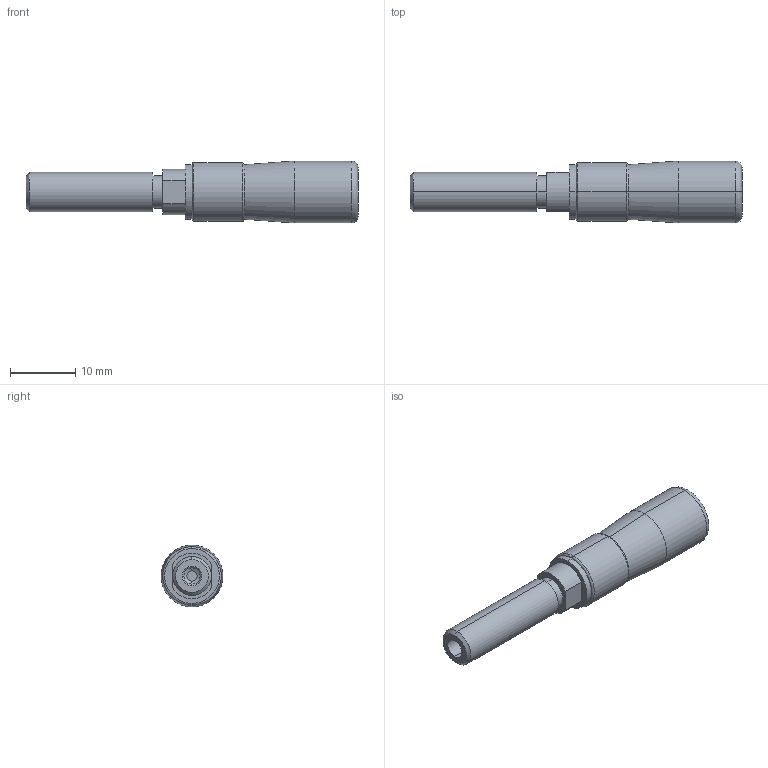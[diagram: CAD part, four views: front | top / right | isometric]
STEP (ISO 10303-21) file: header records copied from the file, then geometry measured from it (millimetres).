
FILE_DESCRIPTION( (''), '2;1');
FILE_NAME ('TGMX25.1684.RBP007RCA_22806.stp','2015-03-30T15:10:25',(''),(''),'spGate 11.3.7','spGate','');
FILE_SCHEMA (('AUTOMOTIVE_DESIGN'));
Length unit declared in the file: millimetre
Bounding box: 51 x 9.5 x 9.5 mm (x, y, z)
Volume: 2332 mm3; surface area: 1574 mm2
Topology: 1 solids, 1 shells, 44 faces, 89 edges, 52 vertices
Faces by surface type: cylinder 20, bspline 15, plane 9
Entity records: 2094 total; most frequent: CARTESIAN_POINT 479, ORIENTED_EDGE 178, DIRECTION 162, COLOUR_RGB 134, PRESENTATION_STYLE_ASSIGNMENT 134, STYLED_ITEM 134, EDGE_CURVE 89, DRAUGHTING_PRE_DEFINED_CURVE_FONT 89
